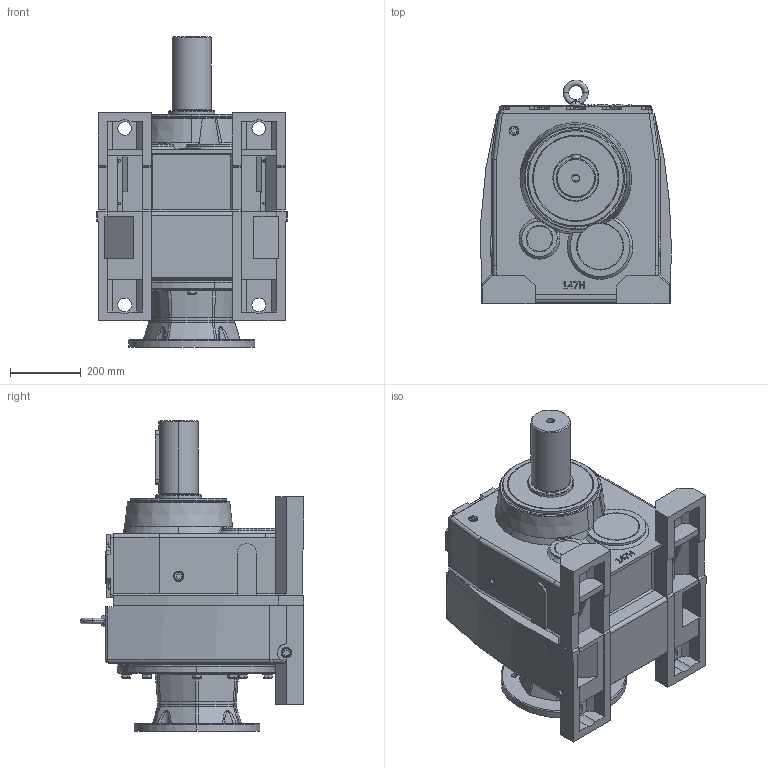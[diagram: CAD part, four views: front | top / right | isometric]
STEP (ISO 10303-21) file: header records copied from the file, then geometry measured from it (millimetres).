
FILE_DESCRIPTION (( 'STEP AP203' ), '1' );
FILE_NAME ('WINL147-364-6TC.STEP', '2013-09-26T10:31:05', ( 'User' ), ( 'Chenta' ), 'SwSTEP 2.0', 'SolidWorks 2011', '' );
FILE_SCHEMA (( 'CONFIG_CONTROL_DESIGN' ));
Length unit declared in the file: millimetre
Products named in the file (1): WINL147-364-6TC
Bounding box: 540.11 x 634 x 880 mm (x, y, z)
Surface area: 2452391.7 mm2 (no closed solid volume)
Topology: 0 solids, 59 shells, 1024 faces, 3058 edges, 2071 vertices
Faces by surface type: plane 576, cylinder 206, cone 164, bspline 52, torus 24, sphere 2
Entity records: 39217 total; most frequent: CARTESIAN_POINT 12358, ORIENTED_EDGE 5353, DIRECTION 5331, EDGE_CURVE 3054, VERTEX_POINT 2071, VECTOR 1843, LINE 1843, AXIS2_PLACEMENT_3D 1744
